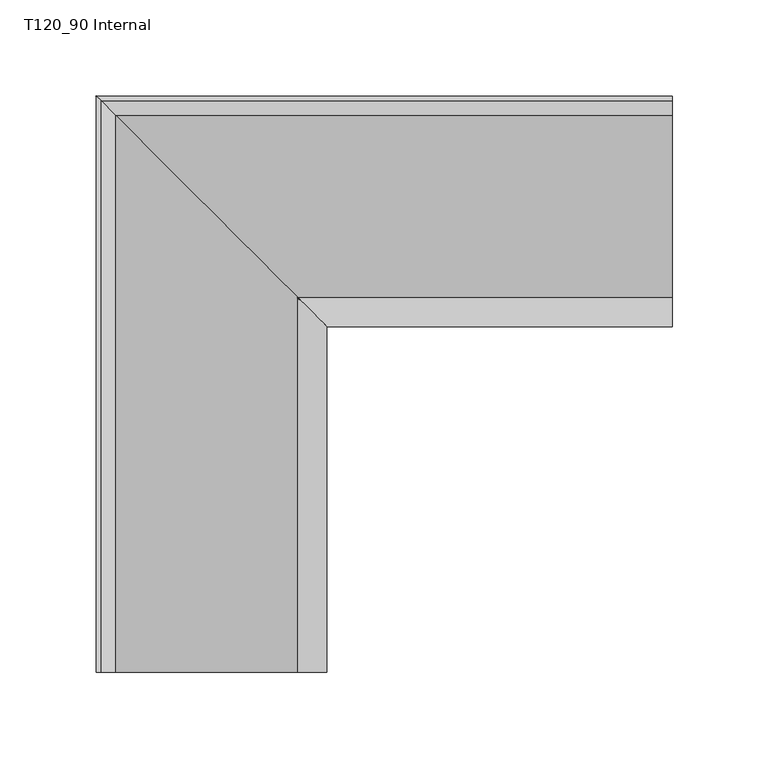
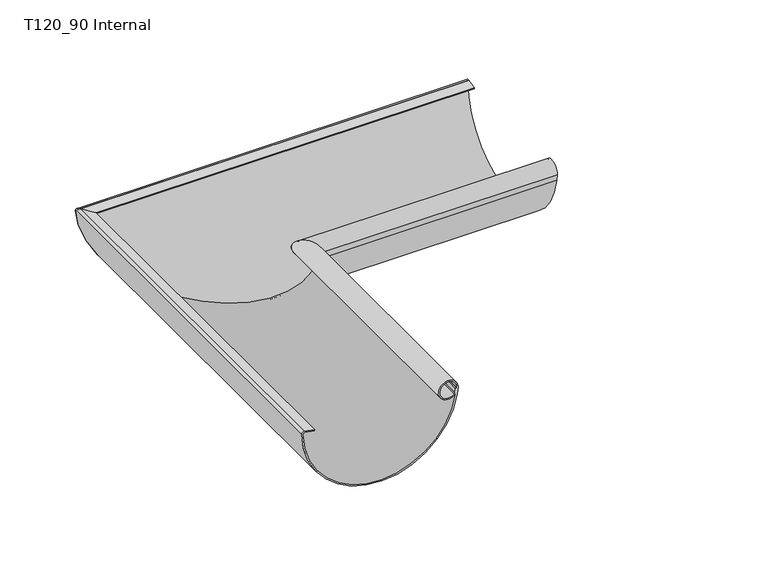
"""IFC4 building model written with IfcOpenShell, lengths in millimetres: proxy geometry, GROVIK_Gutter_Corner : T120_90 Internal."""

from ifc_helpers import new_model, si_unit, frame, origin, place, context, project, spatial, polyline, circle_curve, ellipse_curve, source, transform, mapped, element, save
from ifc_brep_helpers import plane_surface, cylinder_surface, revolved_surface, advanced_brep


def t120_90_internal_4828c36d(model_context):
    return source(origin(), model_context, "Body", "AdvancedBrep", [
        advanced_brep(
        [(119.2549128, -300.0, -10.4251966), (119.995059, -300.0, -5.2006666), (117.5871118, -300.0, -10.6080252), (118.3314375, -300.0, -9.0063664), (118.8825779, -300.0, -5.5500325), (117.995059, -300.0, -5.4006666), (117.4294315, -300.0, -8.9478528), (116.9501607, -300.0, -9.9710741), (119.0897552, -300.0, -5.3813466), (118.2672486, -300.0, -10.26861), (1.0040147, -300.0, -2.0579588), (2.2975071, -300.0, -0.9559749), (9.7857475, -300.0, -2.295228), (9.9441961, -300.0, -1.4092855), (2.2000746, -300.0, -0.0242687), (0.0, -300.0, -1.8), (0.0, 0.2, -1.8), (119.2549128, -119.0549128, -10.4251966), (2.2000746, -2.0000746, -0.0242687), (9.9441961, -9.7441961, -1.4092855), (9.7857475, -9.5857475, -2.295228), (2.2975071, -2.0975071, -0.9559749), (1.0040147, -0.8040147, -2.0579588), (118.2672486, -118.0672486, -10.26861), (119.0897552, -118.8897552, -5.3813466), (116.9501607, -116.7501607, -9.9710741), (117.4294315, -117.2294315, -8.9478528), (117.995059, -117.795059, -5.4006666), (118.8825779, -118.6825779, -5.5500325), (118.3314375, -118.1314375, -9.0063664), (117.5871118, -117.3871118, -10.6080252), (119.995059, -119.795059, -5.2006666)],
        [
            (0, 1),
            (1, 2, circle_curve(frame((112.495059, -300.0, -5.1006666), z_axis=(0.0, -1.0, 0.0), x_axis=(1.0, 0.0, 0.0)), 7.5006666)),
            (2, 3, circle_curve(frame((115.141469, -300.0, -8.4977001), z_axis=(0.0, -1.0, 0.0), x_axis=(1.0, 0.0, 0.0)), 3.2302694)),
            (3, 4),
            (4, 5),
            (5, 6),
            (6, 7, circle_curve(frame((115.4100665, -300.0, -8.6258487), z_axis=(0.0, 1.0, 0.0), x_axis=(1.0, 0.0, 0.0)), 2.0448768)),
            (7, 8, circle_curve(frame((112.495059, -300.0, -5.1006666), z_axis=(0.0, 1.0, 0.0), x_axis=(1.0, 0.0, 0.0)), 6.6006666)),
            (8, 9),
            (9, 10, circle_curve(frame((59.995059, -300.0, -1.03), z_axis=(0.0, 1.0, 0.0), x_axis=(1.0, 0.0, 0.0)), 59.0)),
            (10, 11, circle_curve(frame((2.1038477, -300.0, -2.0387934), z_axis=(0.0, 1.0, 0.0), x_axis=(1.0, 0.0, 0.0)), 1.1)),
            (11, 12),
            (12, 13),
            (13, 14),
            (14, 15, circle_curve(frame((1.8973666, -300.0, -1.9), z_axis=(0.0, -1.0, 0.0), x_axis=(1.0, 0.0, 0.0)), 1.9)),
            (15, 0, circle_curve(frame((59.995059, -300.0, -1.03), z_axis=(0.0, -1.0, 0.0), x_axis=(1.0, 0.0, 0.0)), 60.0)),
            (15, 16),
            (16, 17, ellipse_curve(frame((59.995059, -59.795059, -1.03), z_axis=(-0.7071067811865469, -0.7071067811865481, 0.0), x_axis=(0.7071067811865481, -0.7071067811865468, 0.0)), 84.8528137, 60.0)),
            (17, 0),
            (14, 18),
            (18, 16, ellipse_curve(frame((1.8973666, -1.6973666, -1.9), z_axis=(-0.7071067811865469, -0.7071067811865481, 0.0), x_axis=(0.7071067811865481, -0.7071067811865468, 0.0)), 2.6870058, 1.9)),
            (13, 19),
            (19, 18),
            (12, 20),
            (20, 19),
            (11, 21),
            (21, 20),
            (10, 22),
            (22, 21, ellipse_curve(frame((2.1038477, -1.9038477, -2.0387934), z_axis=(0.7071067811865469, 0.7071067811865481, 0.0), x_axis=(-0.7071067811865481, 0.7071067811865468, 0.0)), 1.5556349, 1.1)),
            (9, 23),
            (23, 22, ellipse_curve(frame((59.995059, -59.795059, -1.03), z_axis=(0.7071067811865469, 0.7071067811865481, 0.0), x_axis=(-0.7071067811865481, 0.7071067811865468, 0.0)), 83.4386002, 59.0)),
            (8, 24),
            (24, 23),
            (7, 25),
            (25, 24, ellipse_curve(frame((112.495059, -112.295059, -5.1006666), z_axis=(0.7071067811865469, 0.7071067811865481, 0.0), x_axis=(-0.7071067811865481, 0.7071067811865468, 0.0)), 9.3347523, 6.6006666)),
            (6, 26),
            (26, 25, ellipse_curve(frame((115.4100665, -115.2100665, -8.6258487), z_axis=(0.7071067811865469, 0.7071067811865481, 0.0), x_axis=(-0.7071067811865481, 0.7071067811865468, 0.0)), 2.8918925, 2.0448768)),
            (5, 27),
            (27, 26),
            (4, 28),
            (28, 27),
            (3, 29),
            (29, 28),
            (2, 30),
            (30, 29, ellipse_curve(frame((115.141469, -114.941469, -8.4977001), z_axis=(-0.7071067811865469, -0.7071067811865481, 0.0), x_axis=(0.7071067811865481, -0.7071067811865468, 0.0)), 4.5682907, 3.2302694)),
            (1, 31),
            (31, 30, ellipse_curve(frame((112.495059, -112.295059, -5.1006666), z_axis=(-0.7071067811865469, -0.7071067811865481, 0.0), x_axis=(0.7071067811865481, -0.7071067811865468, 0.0)), 10.6075445, 7.5006666)),
            (17, 31),
        ],
        [
            plane_surface(frame((0.0, -300.0, 0.0), z_axis=(0.0, -1.0, 0.0), x_axis=(0.0, 0.0, 1.0))),
            cylinder_surface(frame((59.995059, -300.0, -1.03), z_axis=(0.0, -1.0, 0.0), x_axis=(1.0, 0.0, 0.0)), 60.0),
            cylinder_surface(frame((1.8973666, -300.0, -1.9), z_axis=(0.0, -1.0, 0.0), x_axis=(1.0, 0.0, 0.0)), 1.9),
            plane_surface(frame((2.2000746, -300.0, -0.0242687), z_axis=(0.17605399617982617, 0.0, 0.9843805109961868), x_axis=(0.0, 1.0, 0.0))),
            plane_surface(frame((9.9441961, -300.0, -1.4092855), z_axis=(0.9843805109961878, 0.0, -0.1760539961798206), x_axis=(0.0, 1.0, 0.0))),
            plane_surface(frame((9.7857475, -300.0, -2.295228), z_axis=(-0.17605399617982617, 0.0, -0.9843805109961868), x_axis=(0.0, 1.0, 0.0))),
            revolved_surface(polyline([(3.2038477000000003, -0.8038477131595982, -2.0387934), (3.2038477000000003, -300.0, -2.0387934)]), (2.1038477, -300.0, -2.0387934), (0.0, 1.0, 0.0)),
            revolved_surface(polyline([(118.995059, -0.7950589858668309, -1.03), (118.995059, -300.0, -1.03)]), (59.995059, -300.0, -1.03), (0.0, 1.0, 0.0)),
            plane_surface(frame((118.2672486, -300.0, -10.26861), z_axis=(-0.9861321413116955, 0.0, 0.16596204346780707), x_axis=(0.0, 1.0, 0.0))),
            revolved_surface(polyline([(119.0957256, -105.69439234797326, -5.1006666), (119.0957256, -300.0, -5.1006666)]), (112.495059, -300.0, -5.1006666), (0.0, 1.0, 0.0)),
            revolved_surface(polyline([(117.4549433, -113.16518970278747, -8.6258487), (117.4549433, -300.0, -8.6258487)]), (115.4100665, -300.0, -8.6258487), (0.0, 1.0, 0.0)),
            plane_surface(frame((117.4294315, -300.0, -8.9478528), z_axis=(-0.9875239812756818, 0.0, 0.1574686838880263), x_axis=(0.0, 1.0, 0.0))),
            plane_surface(frame((117.995059, -300.0, -5.4006666), z_axis=(0.1659620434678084, 0.0, 0.9861321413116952), x_axis=(0.0, 1.0, 0.0))),
            plane_surface(frame((118.8825779, -300.0, -5.5500325), z_axis=(0.9875239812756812, 0.0, -0.15746868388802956), x_axis=(0.0, 1.0, 0.0))),
            cylinder_surface(frame((115.141469, -300.0, -8.4977001), z_axis=(0.0, -1.0, 0.0), x_axis=(1.0, 0.0, 0.0)), 3.2302694),
            cylinder_surface(frame((112.495059, -300.0, -5.1006666), z_axis=(0.0, -1.0, 0.0), x_axis=(1.0, 0.0, 0.0)), 7.5006666),
            plane_surface(frame((119.995059, -300.0, -5.2006666), z_axis=(0.9901137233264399, 0.0, -0.14026694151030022), x_axis=(0.0, 1.0, 0.0))),
            plane_surface(frame((120.2, -120.0, 250.0), z_axis=(0.7071067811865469, 0.7071067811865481, 0.0), x_axis=(0.0, 0.0, -1.0))),
        ],
        [
            (0, [[1, 2, 3, 4, 5, 6, 7, 8, 9, 10, 11, 12, 13, 14, 15, 16]]),
            (1, [[17, 18, 19, -16]]),
            (2, [[20, 21, -17, -15]]),
            (3, [[22, 23, -20, -14]]),
            (4, [[24, 25, -22, -13]]),
            (5, [[26, 27, -24, -12]]),
            (6, [[28, 29, -26, -11]]),
            (7, [[30, 31, -28, -10]]),
            (8, [[32, 33, -30, -9]]),
            (9, [[34, 35, -32, -8]]),
            (10, [[36, 37, -34, -7]]),
            (11, [[38, 39, -36, -6]]),
            (12, [[40, 41, -38, -5]]),
            (13, [[42, 43, -40, -4]]),
            (14, [[44, 45, -42, -3]]),
            (15, [[46, 47, -44, -2]]),
            (16, [[-19, 48, -46, -1]]),
            (17, [[-21, -23, -25, -27, -29, -31, -33, -35, -37, -39, -41, -43, -45, -47, -48, -18]]),
        ],
    ),
        advanced_brep(
        [(300.0, -119.2549128, -10.4251966), (300.0, 0.0, -1.8), (300.0, -2.2000746, -0.0242687), (300.0, -9.9441961, -1.4092855), (300.0, -9.7857475, -2.295228), (300.0, -2.2975071, -0.9559749), (300.0, -1.0040147, -2.0579588), (300.0, -118.2672486, -10.26861), (300.0, -119.0897552, -5.3813466), (300.0, -116.9501607, -9.9710741), (300.0, -117.4294315, -8.9478528), (300.0, -117.995059, -5.4006666), (300.0, -118.8825779, -5.5500325), (300.0, -118.3314375, -9.0063664), (300.0, -117.5871118, -10.6080252), (300.0, -119.995059, -5.2006666), (119.0549128, -119.2549128, -10.4251966), (-0.2, 0.0, -1.8), (2.0000746, -2.2000746, -0.0242687), (9.7441961, -9.9441961, -1.4092855), (9.5857475, -9.7857475, -2.295228), (2.0975071, -2.2975071, -0.9559749), (0.8040147, -1.0040147, -2.0579588), (118.0672486, -118.2672486, -10.26861), (118.8897552, -119.0897552, -5.3813466), (116.7501607, -116.9501607, -9.9710741), (117.2294315, -117.4294315, -8.9478528), (117.795059, -117.995059, -5.4006666), (118.6825779, -118.8825779, -5.5500325), (118.1314375, -118.3314375, -9.0063664), (117.3871118, -117.5871118, -10.6080252), (119.795059, -119.995059, -5.2006666)],
        [
            (0, 1, circle_curve(frame((300.0, -59.995059, -1.03), z_axis=(1.0, 0.0, 0.0), x_axis=(0.0, -1.0, 0.0)), 60.0)),
            (1, 2, circle_curve(frame((300.0, -1.8973666, -1.9), z_axis=(1.0, 0.0, 0.0), x_axis=(0.0, -1.0, 0.0)), 1.9)),
            (2, 3),
            (3, 4),
            (4, 5),
            (5, 6, circle_curve(frame((300.0, -2.1038477, -2.0387934), z_axis=(-1.0, 0.0, 0.0), x_axis=(0.0, -1.0, 0.0)), 1.1)),
            (6, 7, circle_curve(frame((300.0, -59.995059, -1.03), z_axis=(-1.0, 0.0, 0.0), x_axis=(0.0, -1.0, 0.0)), 59.0)),
            (7, 8),
            (8, 9, circle_curve(frame((300.0, -112.495059, -5.1006666), z_axis=(-1.0, 0.0, 0.0), x_axis=(0.0, -1.0, 0.0)), 6.6006666)),
            (9, 10, circle_curve(frame((300.0, -115.4100665, -8.6258487), z_axis=(-1.0, 0.0, 0.0), x_axis=(0.0, -1.0, 0.0)), 2.0448768)),
            (10, 11),
            (11, 12),
            (12, 13),
            (13, 14, circle_curve(frame((300.0, -115.141469, -8.4977001), z_axis=(1.0, 0.0, 0.0), x_axis=(0.0, -1.0, 0.0)), 3.2302694)),
            (14, 15, circle_curve(frame((300.0, -112.495059, -5.1006666), z_axis=(1.0, 0.0, 0.0), x_axis=(0.0, -1.0, 0.0)), 7.5006666)),
            (15, 0),
            (0, 16),
            (16, 17, ellipse_curve(frame((59.795059, -59.995059, -1.03), z_axis=(0.707106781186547, 0.707106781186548, 0.0), x_axis=(0.7071067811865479, -0.707106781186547, 0.0)), 84.8528137, 60.0)),
            (17, 1),
            (17, 18, ellipse_curve(frame((1.6973666, -1.8973666, -1.9), z_axis=(0.707106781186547, 0.707106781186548, 0.0), x_axis=(0.7071067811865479, -0.707106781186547, 0.0)), 2.6870058, 1.9)),
            (18, 2),
            (18, 19),
            (19, 3),
            (19, 20),
            (20, 4),
            (20, 21),
            (21, 5),
            (21, 22, ellipse_curve(frame((1.9038477, -2.1038477, -2.0387934), z_axis=(-0.707106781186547, -0.707106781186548, 0.0), x_axis=(-0.7071067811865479, 0.707106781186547, 0.0)), 1.5556349, 1.1)),
            (22, 6),
            (22, 23, ellipse_curve(frame((59.795059, -59.995059, -1.03), z_axis=(-0.707106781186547, -0.707106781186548, 0.0), x_axis=(-0.7071067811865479, 0.707106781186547, 0.0)), 83.4386002, 59.0)),
            (23, 7),
            (23, 24),
            (24, 8),
            (24, 25, ellipse_curve(frame((112.295059, -112.495059, -5.1006666), z_axis=(-0.707106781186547, -0.707106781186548, 0.0), x_axis=(-0.7071067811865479, 0.707106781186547, 0.0)), 9.3347523, 6.6006666)),
            (25, 9),
            (25, 26, ellipse_curve(frame((115.2100665, -115.4100665, -8.6258487), z_axis=(-0.707106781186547, -0.707106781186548, 0.0), x_axis=(-0.7071067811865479, 0.707106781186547, 0.0)), 2.8918925, 2.0448768)),
            (26, 10),
            (26, 27),
            (27, 11),
            (27, 28),
            (28, 12),
            (28, 29),
            (29, 13),
            (29, 30, ellipse_curve(frame((114.941469, -115.141469, -8.4977001), z_axis=(0.707106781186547, 0.707106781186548, 0.0), x_axis=(0.7071067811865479, -0.707106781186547, 0.0)), 4.5682907, 3.2302694)),
            (30, 14),
            (30, 31, ellipse_curve(frame((112.295059, -112.495059, -5.1006666), z_axis=(0.707106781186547, 0.707106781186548, 0.0), x_axis=(0.7071067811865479, -0.707106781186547, 0.0)), 10.6075445, 7.5006666)),
            (31, 15),
            (31, 16),
        ],
        [
            plane_surface(frame((300.0, 0.0, 0.0), z_axis=(1.0, 0.0, 0.0), x_axis=(0.0, 0.0, 1.0))),
            cylinder_surface(frame((300.0, -59.995059, -1.03), z_axis=(1.0, 0.0, 0.0), x_axis=(0.0, -1.0, 0.0)), 60.0),
            cylinder_surface(frame((300.0, -1.8973666, -1.9), z_axis=(1.0, 0.0, 0.0), x_axis=(0.0, -1.0, 0.0)), 1.9),
            plane_surface(frame((300.0, -2.2000746, -0.0242687), z_axis=(0.0, -0.17605399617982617, 0.9843805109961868), x_axis=(-1.0, 0.0, 0.0))),
            plane_surface(frame((300.0, -9.9441961, -1.4092855), z_axis=(0.0, -0.9843805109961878, -0.1760539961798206), x_axis=(-1.0, 0.0, 0.0))),
            plane_surface(frame((300.0, -9.7857475, -2.295228), z_axis=(0.0, 0.17605399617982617, -0.9843805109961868), x_axis=(-1.0, 0.0, 0.0))),
            revolved_surface(polyline([(0.8038477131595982, -3.2038477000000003, -2.0387934), (300.0, -3.2038477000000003, -2.0387934)]), (300.0, -2.1038477, -2.0387934), (-1.0, 0.0, 0.0)),
            revolved_surface(polyline([(0.795058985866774, -118.995059, -1.03), (300.0, -118.995059, -1.03)]), (300.0, -59.995059, -1.03), (-1.0, 0.0, 0.0)),
            plane_surface(frame((300.0, -118.2672486, -10.26861), z_axis=(0.0, 0.9861321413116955, 0.16596204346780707), x_axis=(-1.0, 0.0, 0.0))),
            revolved_surface(polyline([(105.69439234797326, -119.0957256, -5.1006666), (300.0, -119.0957256, -5.1006666)]), (300.0, -112.495059, -5.1006666), (-1.0, 0.0, 0.0)),
            revolved_surface(polyline([(113.16518970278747, -117.4549433, -8.6258487), (300.0, -117.4549433, -8.6258487)]), (300.0, -115.4100665, -8.6258487), (-1.0, 0.0, 0.0)),
            plane_surface(frame((300.0, -117.4294315, -8.9478528), z_axis=(0.0, 0.9875239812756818, 0.1574686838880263), x_axis=(-1.0, 0.0, 0.0))),
            plane_surface(frame((300.0, -117.995059, -5.4006666), z_axis=(0.0, -0.1659620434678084, 0.9861321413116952), x_axis=(-1.0, 0.0, 0.0))),
            plane_surface(frame((300.0, -118.8825779, -5.5500325), z_axis=(0.0, -0.9875239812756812, -0.15746868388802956), x_axis=(-1.0, 0.0, 0.0))),
            cylinder_surface(frame((300.0, -115.141469, -8.4977001), z_axis=(1.0, 0.0, 0.0), x_axis=(0.0, -1.0, 0.0)), 3.2302694),
            cylinder_surface(frame((300.0, -112.495059, -5.1006666), z_axis=(1.0, 0.0, 0.0), x_axis=(0.0, -1.0, 0.0)), 7.5006666),
            plane_surface(frame((300.0, -119.995059, -5.2006666), z_axis=(0.0, -0.9901137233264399, -0.14026694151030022), x_axis=(-1.0, 0.0, 0.0))),
            plane_surface(frame((120.0, -120.2, 250.0), z_axis=(-0.707106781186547, -0.707106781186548, 0.0), x_axis=(0.0, 0.0, -1.0))),
        ],
        [
            (0, [[1, 2, 3, 4, 5, 6, 7, 8, 9, 10, 11, 12, 13, 14, 15, 16]]),
            (1, [[-1, 17, 18, 19]]),
            (2, [[-2, -19, 20, 21]]),
            (3, [[-3, -21, 22, 23]]),
            (4, [[-4, -23, 24, 25]]),
            (5, [[-5, -25, 26, 27]]),
            (6, [[-6, -27, 28, 29]]),
            (7, [[-7, -29, 30, 31]]),
            (8, [[-8, -31, 32, 33]]),
            (9, [[-9, -33, 34, 35]]),
            (10, [[-10, -35, 36, 37]]),
            (11, [[-11, -37, 38, 39]]),
            (12, [[-12, -39, 40, 41]]),
            (13, [[-13, -41, 42, 43]]),
            (14, [[-14, -43, 44, 45]]),
            (15, [[-15, -45, 46, 47]]),
            (16, [[-16, -47, 48, -17]]),
            (17, [[-18, -48, -46, -44, -42, -40, -38, -36, -34, -32, -30, -28, -26, -24, -22, -20]]),
        ],
    ),
    ])


if __name__ == "__main__":
    model = new_model("IFC4")
    model_context = context("Model", 3, world=origin())
    ifc_project = project(units=[si_unit("LENGTHUNIT", "METRE", prefix="MILLI")], contexts=[model_context])
    site = spatial("IfcSite", under=ifc_project)
    building = spatial("IfcBuilding", under=site)
    placement = place(None, origin())
    t120_90_internal_shape = t120_90_internal_4828c36d(model_context)
    element("IfcBuildingElementProxy", 1, Name="GROVIK_Gutter_Corner : T120_90 Internal", ObjectType="GROVIK_Gutter_Corner : T120_90 Internal", at=placement, inside=building, context=model_context, shape_type="MappedRepresentation", body=[
        mapped(t120_90_internal_shape, transform((0.0, 0.0, 0.0), x_axis=(1.0, 0.0, 0.0), y_axis=(0.0, 1.0, 0.0), z_axis=(0.0, 0.0, 1.0))),
    ])
    save(model, "model.ifc")
